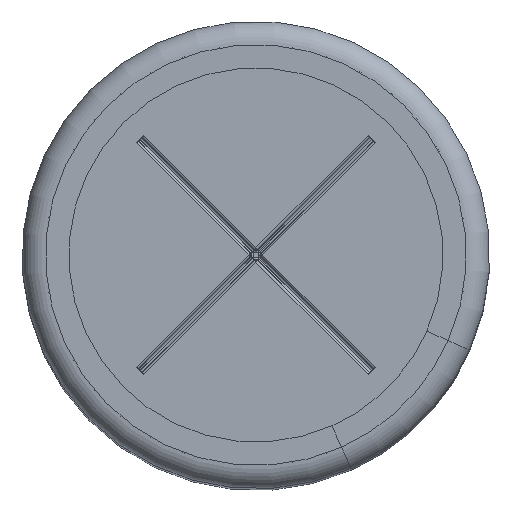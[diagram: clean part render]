
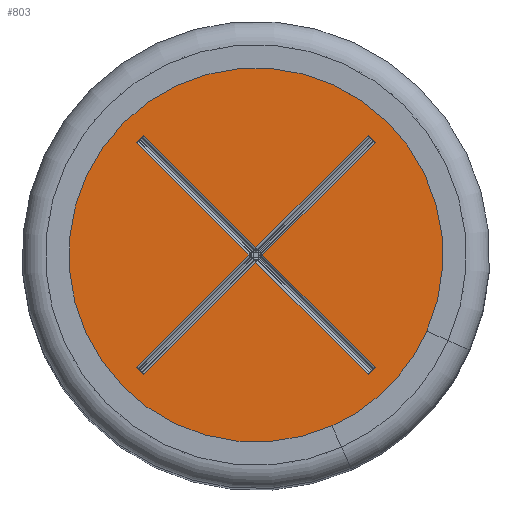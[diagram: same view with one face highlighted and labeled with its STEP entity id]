
A CAD part, top view. The second image highlights one B-rep face of the part: STEP entity #803.
In plain terms, the highlighted planar face has unit normal (0, 0, 1).
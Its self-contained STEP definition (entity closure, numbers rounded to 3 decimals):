
#176=FACE_BOUND('',#1284,.T.);
#177=FACE_BOUND('',#1285,.T.);
#687=PLANE('',#4047);
#803=ADVANCED_FACE('',(#176,#177),#687,.T.);
#1284=EDGE_LOOP('',(#2130));
#1285=EDGE_LOOP('',(#2131,#2132,#2133,#2134,#2135,#2136,#2137,#2138,#2139,
#2140,#2141,#2142));
#1517=LINE('',#5710,#1771);
#1518=LINE('',#5713,#1772);
#1519=LINE('',#5715,#1773);
#1520=LINE('',#5717,#1774);
#1521=LINE('',#5719,#1775);
#1522=LINE('',#5721,#1776);
#1523=LINE('',#5723,#1777);
#1524=LINE('',#5725,#1778);
#1525=LINE('',#5727,#1779);
#1526=LINE('',#5729,#1780);
#1527=LINE('',#5731,#1781);
#1528=LINE('',#5733,#1782);
#1771=VECTOR('',#4590,1.);
#1772=VECTOR('',#4591,1.);
#1773=VECTOR('',#4592,1.);
#1774=VECTOR('',#4593,1.);
#1775=VECTOR('',#4594,1.);
#1776=VECTOR('',#4595,1.);
#1777=VECTOR('',#4596,1.);
#1778=VECTOR('',#4597,1.);
#1779=VECTOR('',#4598,1.);
#1780=VECTOR('',#4599,1.);
#1781=VECTOR('',#4600,1.);
#1782=VECTOR('',#4601,1.);
#2130=ORIENTED_EDGE('',*,*,#3368,.F.);
#2131=ORIENTED_EDGE('',*,*,#3369,.F.);
#2132=ORIENTED_EDGE('',*,*,#3370,.T.);
#2133=ORIENTED_EDGE('',*,*,#3371,.T.);
#2134=ORIENTED_EDGE('',*,*,#3372,.T.);
#2135=ORIENTED_EDGE('',*,*,#3373,.T.);
#2136=ORIENTED_EDGE('',*,*,#3374,.T.);
#2137=ORIENTED_EDGE('',*,*,#3375,.T.);
#2138=ORIENTED_EDGE('',*,*,#3376,.T.);
#2139=ORIENTED_EDGE('',*,*,#3377,.T.);
#2140=ORIENTED_EDGE('',*,*,#3378,.F.);
#2141=ORIENTED_EDGE('',*,*,#3379,.T.);
#2142=ORIENTED_EDGE('',*,*,#3380,.T.);
#3038=VERTEX_POINT('',#5709);
#3039=VERTEX_POINT('',#5711);
#3040=VERTEX_POINT('',#5712);
#3041=VERTEX_POINT('',#5714);
#3042=VERTEX_POINT('',#5716);
#3043=VERTEX_POINT('',#5718);
#3044=VERTEX_POINT('',#5720);
#3045=VERTEX_POINT('',#5722);
#3046=VERTEX_POINT('',#5724);
#3047=VERTEX_POINT('',#5726);
#3048=VERTEX_POINT('',#5728);
#3049=VERTEX_POINT('',#5730);
#3050=VERTEX_POINT('',#5732);
#3368=EDGE_CURVE('',#3038,#3038,#3826,.T.);
#3369=EDGE_CURVE('',#3039,#3040,#1517,.T.);
#3370=EDGE_CURVE('',#3039,#3041,#1518,.T.);
#3371=EDGE_CURVE('',#3041,#3042,#1519,.T.);
#3372=EDGE_CURVE('',#3042,#3043,#1520,.T.);
#3373=EDGE_CURVE('',#3043,#3044,#1521,.T.);
#3374=EDGE_CURVE('',#3044,#3045,#1522,.T.);
#3375=EDGE_CURVE('',#3045,#3046,#1523,.T.);
#3376=EDGE_CURVE('',#3046,#3047,#1524,.T.);
#3377=EDGE_CURVE('',#3047,#3048,#1525,.T.);
#3378=EDGE_CURVE('',#3049,#3048,#1526,.T.);
#3379=EDGE_CURVE('',#3049,#3050,#1527,.T.);
#3380=EDGE_CURVE('',#3050,#3040,#1528,.T.);
#3826=CIRCLE('',#4046,9.);
#4046=AXIS2_PLACEMENT_3D('',#5708,#4588,#4589);
#4047=AXIS2_PLACEMENT_3D('',#5734,#4602,#4603);
#4588=DIRECTION('',(0.,0.,-1.));
#4589=DIRECTION('',(-1.,0.,0.));
#4590=DIRECTION('',(0.707,-0.707,0.));
#4591=DIRECTION('',(0.707,0.707,0.));
#4592=DIRECTION('',(-0.707,0.707,0.));
#4593=DIRECTION('',(0.707,0.707,0.));
#4594=DIRECTION('',(0.707,-0.707,0.));
#4595=DIRECTION('',(0.707,0.707,0.));
#4596=DIRECTION('',(0.707,-0.707,0.));
#4597=DIRECTION('',(-0.707,-0.707,0.));
#4598=DIRECTION('',(0.707,-0.707,0.));
#4599=DIRECTION('',(0.707,0.707,0.));
#4600=DIRECTION('',(-0.707,0.707,0.));
#4601=DIRECTION('',(-0.707,-0.707,0.));
#4602=DIRECTION('',(0.,0.,1.));
#4603=DIRECTION('',(1.,0.,0.));
#5708=CARTESIAN_POINT('',(0.,0.,44.8));
#5709=CARTESIAN_POINT('',(-9.,0.,44.8));
#5710=CARTESIAN_POINT('',(-5.056,-4.844,44.8));
#5711=CARTESIAN_POINT('',(-5.1,-4.8,44.8));
#5712=CARTESIAN_POINT('',(-4.8,-5.1,44.8));
#5713=CARTESIAN_POINT('',(-4.65,-4.35,44.8));
#5714=CARTESIAN_POINT('',(-0.3,0.,44.8));
#5715=CARTESIAN_POINT('',(-4.65,4.35,44.8));
#5716=CARTESIAN_POINT('',(-5.1,4.8,44.8));
#5717=CARTESIAN_POINT('',(-4.844,5.056,44.8));
#5718=CARTESIAN_POINT('',(-4.8,5.1,44.8));
#5719=CARTESIAN_POINT('',(-4.35,4.65,44.8));
#5720=CARTESIAN_POINT('',(0.,0.3,44.8));
#5721=CARTESIAN_POINT('',(-4.65,-4.35,44.8));
#5722=CARTESIAN_POINT('',(4.8,5.1,44.8));
#5723=CARTESIAN_POINT('',(4.844,5.056,44.8));
#5724=CARTESIAN_POINT('',(5.1,4.8,44.8));
#5725=CARTESIAN_POINT('',(-4.35,-4.65,44.8));
#5726=CARTESIAN_POINT('',(0.3,0.,44.8));
#5727=CARTESIAN_POINT('',(-4.35,4.65,44.8));
#5728=CARTESIAN_POINT('',(5.1,-4.8,44.8));
#5729=CARTESIAN_POINT('',(5.056,-4.844,44.8));
#5730=CARTESIAN_POINT('',(4.8,-5.1,44.8));
#5731=CARTESIAN_POINT('',(-4.65,4.35,44.8));
#5732=CARTESIAN_POINT('',(0.,-0.3,44.8));
#5733=CARTESIAN_POINT('',(-4.35,-4.65,44.8));
#5734=CARTESIAN_POINT('',(-9.,0.,44.8));
